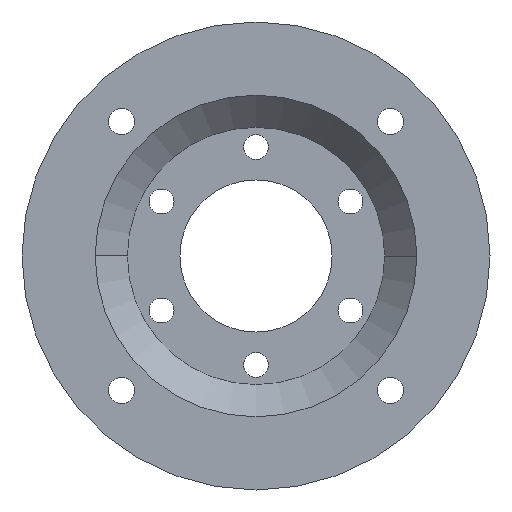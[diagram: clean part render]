
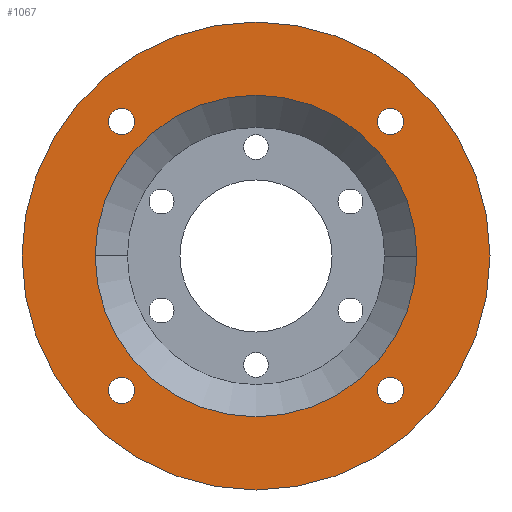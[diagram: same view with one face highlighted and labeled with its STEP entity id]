
A CAD part, front view. The second image highlights one B-rep face of the part: STEP entity #1067.
In plain terms, the highlighted planar face has unit normal (0, -1, 0).
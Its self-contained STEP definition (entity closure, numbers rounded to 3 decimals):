
#6 = EDGE_CURVE ( 'NONE', #1223, #865, #219, .T. ) ;
#10 = DIRECTION ( 'NONE',  ( 0., 0., -1. ) ) ;
#18 = DIRECTION ( 'NONE',  ( -1., 0., 0. ) ) ;
#24 = EDGE_CURVE ( 'NONE', #865, #1223, #471, .T. ) ;
#37 = CARTESIAN_POINT ( 'NONE',  ( 19.962, -15., -45.962 ) ) ;
#39 = ORIENTED_EDGE ( 'NONE', *, *, #944, .T. ) ;
#41 = ORIENTED_EDGE ( 'NONE', *, *, #363, .T. ) ;
#57 = ORIENTED_EDGE ( 'NONE', *, *, #1017, .F. ) ;
#66 = CARTESIAN_POINT ( 'NONE',  ( -71.962, -15., 50.462 ) ) ;
#75 = EDGE_CURVE ( 'NONE', #1316, #1242, #707, .T. ) ;
#84 = VERTEX_POINT ( 'NONE', #508 ) ;
#95 = AXIS2_PLACEMENT_3D ( 'NONE', #783, #275, #996 ) ;
#110 = CARTESIAN_POINT ( 'NONE',  ( 15.462, -15., 45.962 ) ) ;
#120 = CIRCLE ( 'NONE', #1035, 4.5 ) ;
#123 = DIRECTION ( 'NONE',  ( 0., 1., 0. ) ) ;
#137 = ORIENTED_EDGE ( 'NONE', *, *, #892, .T. ) ;
#178 = EDGE_LOOP ( 'NONE', ( #1254, #1211 ) ) ;
#200 = FACE_BOUND ( 'NONE', #178, .T. ) ;
#219 = CIRCLE ( 'NONE', #956, 4.5 ) ;
#221 = EDGE_CURVE ( 'NONE', #1242, #1316, #299, .T. ) ;
#234 = DIRECTION ( 'NONE',  ( -1., 0., 0. ) ) ;
#236 = EDGE_LOOP ( 'NONE', ( #526, #137 ) ) ;
#250 = AXIS2_PLACEMENT_3D ( 'NONE', #333, #955, #234 ) ;
#275 = DIRECTION ( 'NONE',  ( 0., 1., 0. ) ) ;
#278 = CARTESIAN_POINT ( 'NONE',  ( -71.962, -15., 41.462 ) ) ;
#282 = VERTEX_POINT ( 'NONE', #967 ) ;
#294 = DIRECTION ( 'NONE',  ( -1., 0., 0. ) ) ;
#299 = CIRCLE ( 'NONE', #974, 4.5 ) ;
#315 = AXIS2_PLACEMENT_3D ( 'NONE', #37, #647, #10 ) ;
#333 = CARTESIAN_POINT ( 'NONE',  ( -26., -15., 0. ) ) ;
#344 = CARTESIAN_POINT ( 'NONE',  ( -71.962, -15., 45.962 ) ) ;
#357 = CARTESIAN_POINT ( 'NONE',  ( 54., -15., 0. ) ) ;
#363 = EDGE_CURVE ( 'NONE', #529, #806, #929, .T. ) ;
#384 = CIRCLE ( 'NONE', #442, 55. ) ;
#387 = VERTEX_POINT ( 'NONE', #110 ) ;
#390 = CARTESIAN_POINT ( 'NONE',  ( -26., -15., 0. ) ) ;
#401 = ORIENTED_EDGE ( 'NONE', *, *, #1226, .T. ) ;
#402 = CARTESIAN_POINT ( 'NONE',  ( -71.962, -15., -45.962 ) ) ;
#442 = AXIS2_PLACEMENT_3D ( 'NONE', #981, #1084, #464 ) ;
#456 = DIRECTION ( 'NONE',  ( -1., 0., 0. ) ) ;
#458 = AXIS2_PLACEMENT_3D ( 'NONE', #1289, #668, #456 ) ;
#460 = DIRECTION ( 'NONE',  ( 0., 1., 0. ) ) ;
#464 = DIRECTION ( 'NONE',  ( -1., 0., 0. ) ) ;
#469 = FACE_BOUND ( 'NONE', #1302, .T. ) ;
#471 = CIRCLE ( 'NONE', #1025, 4.5 ) ;
#494 = DIRECTION ( 'NONE',  ( -1., 0., 0. ) ) ;
#503 = FACE_BOUND ( 'NONE', #236, .T. ) ;
#508 = CARTESIAN_POINT ( 'NONE',  ( -106., -15., 0. ) ) ;
#517 = VERTEX_POINT ( 'NONE', #1283 ) ;
#525 = EDGE_LOOP ( 'NONE', ( #57, #1071 ) ) ;
#526 = ORIENTED_EDGE ( 'NONE', *, *, #1034, .T. ) ;
#529 = VERTEX_POINT ( 'NONE', #672 ) ;
#559 = DIRECTION ( 'NONE',  ( 1., 0., 0. ) ) ;
#582 = CIRCLE ( 'NONE', #95, 4.5 ) ;
#609 = CARTESIAN_POINT ( 'NONE',  ( 29., -15., 0. ) ) ;
#623 = AXIS2_PLACEMENT_3D ( 'NONE', #1191, #460, #1080 ) ;
#624 = EDGE_LOOP ( 'NONE', ( #401, #39 ) ) ;
#647 = DIRECTION ( 'NONE',  ( 0., 1., 0. ) ) ;
#659 = CARTESIAN_POINT ( 'NONE',  ( 24.462, -15., 45.962 ) ) ;
#664 = CARTESIAN_POINT ( 'NONE',  ( 19.962, -15., 45.962 ) ) ;
#668 = DIRECTION ( 'NONE',  ( 0., 1., 0. ) ) ;
#672 = CARTESIAN_POINT ( 'NONE',  ( -81., -15., 0. ) ) ;
#678 = DIRECTION ( 'NONE',  ( 0., 0., 1. ) ) ;
#706 = EDGE_CURVE ( 'NONE', #922, #84, #791, .T. ) ;
#707 = CIRCLE ( 'NONE', #1305, 4.5 ) ;
#708 = DIRECTION ( 'NONE',  ( -1., 0., 0. ) ) ;
#728 = DIRECTION ( 'NONE',  ( 0., 1., 0. ) ) ;
#730 = AXIS2_PLACEMENT_3D ( 'NONE', #609, #1027, #708 ) ;
#741 = ORIENTED_EDGE ( 'NONE', *, *, #75, .T. ) ;
#774 = FACE_BOUND ( 'NONE', #624, .T. ) ;
#783 = CARTESIAN_POINT ( 'NONE',  ( 19.962, -15., 45.962 ) ) ;
#791 = CIRCLE ( 'NONE', #1060, 80. ) ;
#793 = CARTESIAN_POINT ( 'NONE',  ( 29., -15., 0. ) ) ;
#806 = VERTEX_POINT ( 'NONE', #793 ) ;
#809 = CIRCLE ( 'NONE', #250, 80. ) ;
#835 = CARTESIAN_POINT ( 'NONE',  ( -71.962, -15., 45.962 ) ) ;
#865 = VERTEX_POINT ( 'NONE', #66 ) ;
#892 = EDGE_CURVE ( 'NONE', #282, #517, #938, .T. ) ;
#922 = VERTEX_POINT ( 'NONE', #357 ) ;
#929 = CIRCLE ( 'NONE', #458, 55. ) ;
#938 = CIRCLE ( 'NONE', #623, 4.5 ) ;
#943 = ORIENTED_EDGE ( 'NONE', *, *, #221, .T. ) ;
#944 = EDGE_CURVE ( 'NONE', #980, #387, #120, .T. ) ;
#950 = EDGE_LOOP ( 'NONE', ( #943, #741 ) ) ;
#956 = AXIS2_PLACEMENT_3D ( 'NONE', #344, #1089, #678 ) ;
#955 = DIRECTION ( 'NONE',  ( 0., 1., 0. ) ) ;
#967 = CARTESIAN_POINT ( 'NONE',  ( 19.962, -15., -50.462 ) ) ;
#974 = AXIS2_PLACEMENT_3D ( 'NONE', #1249, #728, #18 ) ;
#980 = VERTEX_POINT ( 'NONE', #659 ) ;
#981 = CARTESIAN_POINT ( 'NONE',  ( -26., -15., 0. ) ) ;
#996 = DIRECTION ( 'NONE',  ( 1., 0., 0. ) ) ;
#1017 = EDGE_CURVE ( 'NONE', #84, #922, #809, .T. ) ;
#1020 = DIRECTION ( 'NONE',  ( 0., 1., 0. ) ) ;
#1025 = AXIS2_PLACEMENT_3D ( 'NONE', #835, #123, #1046 ) ;
#1027 = DIRECTION ( 'NONE',  ( 0., 1., 0. ) ) ;
#1034 = EDGE_CURVE ( 'NONE', #517, #282, #1329, .T. ) ;
#1035 = AXIS2_PLACEMENT_3D ( 'NONE', #664, #1282, #559 ) ;
#1046 = DIRECTION ( 'NONE',  ( 0., 0., 1. ) ) ;
#1052 = FACE_BOUND ( 'NONE', #950, .T. ) ;
#1060 = AXIS2_PLACEMENT_3D ( 'NONE', #390, #1120, #494 ) ;
#1067 = ADVANCED_FACE ( 'NONE', ( #503, #774, #200, #1052, #1265, #469 ), #1128, .F. ) ;
#1071 = ORIENTED_EDGE ( 'NONE', *, *, #706, .F. ) ;
#1080 = DIRECTION ( 'NONE',  ( 0., 0., -1. ) ) ;
#1084 = DIRECTION ( 'NONE',  ( 0., 1., 0. ) ) ;
#1089 = DIRECTION ( 'NONE',  ( 0., 1., 0. ) ) ;
#1105 = CARTESIAN_POINT ( 'NONE',  ( -76.462, -15., -45.962 ) ) ;
#1120 = DIRECTION ( 'NONE',  ( 0., 1., 0. ) ) ;
#1128 = PLANE ( 'NONE',  #730 ) ;
#1140 = ORIENTED_EDGE ( 'NONE', *, *, #1296, .T. ) ;
#1190 = CARTESIAN_POINT ( 'NONE',  ( -67.462, -15., -45.962 ) ) ;
#1191 = CARTESIAN_POINT ( 'NONE',  ( 19.962, -15., -45.962 ) ) ;
#1211 = ORIENTED_EDGE ( 'NONE', *, *, #6, .T. ) ;
#1223 = VERTEX_POINT ( 'NONE', #278 ) ;
#1226 = EDGE_CURVE ( 'NONE', #387, #980, #582, .T. ) ;
#1242 = VERTEX_POINT ( 'NONE', #1105 ) ;
#1249 = CARTESIAN_POINT ( 'NONE',  ( -71.962, -15., -45.962 ) ) ;
#1254 = ORIENTED_EDGE ( 'NONE', *, *, #24, .T. ) ;
#1265 = FACE_OUTER_BOUND ( 'NONE', #525, .T. ) ;
#1282 = DIRECTION ( 'NONE',  ( 0., 1., 0. ) ) ;
#1283 = CARTESIAN_POINT ( 'NONE',  ( 19.962, -15., -41.462 ) ) ;
#1289 = CARTESIAN_POINT ( 'NONE',  ( -26., -15., 0. ) ) ;
#1296 = EDGE_CURVE ( 'NONE', #806, #529, #384, .T. ) ;
#1302 = EDGE_LOOP ( 'NONE', ( #41, #1140 ) ) ;
#1305 = AXIS2_PLACEMENT_3D ( 'NONE', #402, #1020, #294 ) ;
#1316 = VERTEX_POINT ( 'NONE', #1190 ) ;
#1329 = CIRCLE ( 'NONE', #315, 4.5 ) ;
